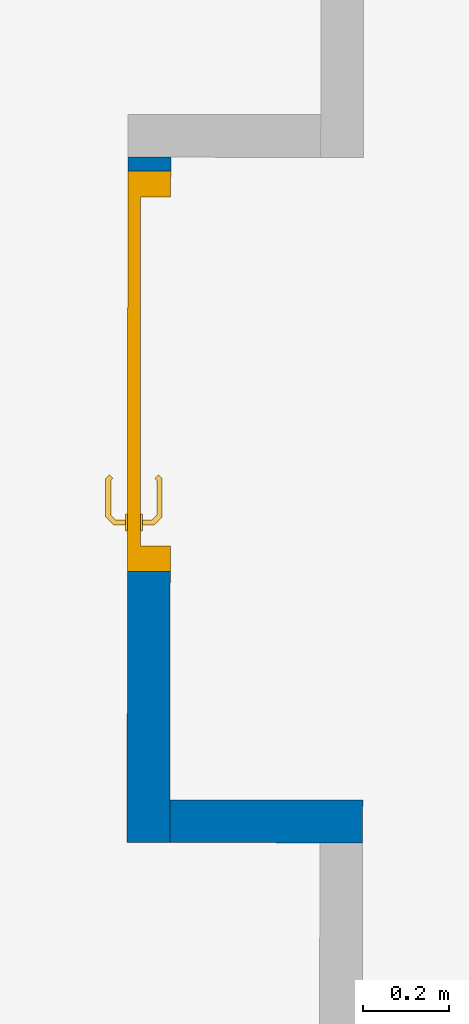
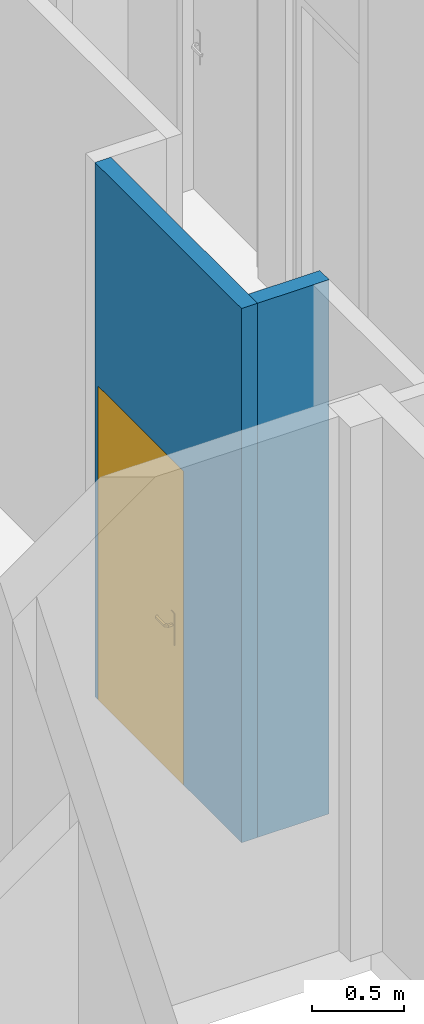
# One storey, part 77 of 101: 2 walls, 1 door, 1 opening.
"""IFC2X3 building model written with IfcOpenShell, lengths in metres."""

from ifc_helpers import new_model, entity, si_unit, converted_unit, derived_unit, direction, frame, frame_2d, origin, place, context, subcontext, project, spatial, rectangle, extrude, faceted_brep, source, transform, mapped, material, material_list, layer, layer_set, layer_usage, type_object, type_shapes, element, fill, save


model = new_model("IFC2X3")

# Units and contexts
model_context = context("Model", 3, precision=1e-05, world=origin(), true_north=direction((6.123233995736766e-17, 1.0)))
body_context = subcontext(model_context, "Body", "Model", "MODEL_VIEW")
ifc_project = project(units=[si_unit("LENGTHUNIT", "METRE"), si_unit("AREAUNIT", "SQUARE_METRE"), converted_unit("PLANEANGLEUNIT", "DEGREE", entity("IfcPlaneAngleMeasure", 0.017453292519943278), si_unit("PLANEANGLEUNIT", "RADIAN"), dimensions=[0, 0, 0, 0, 0, 0, 0]), derived_unit("THERMALTRANSMITTANCEUNIT", [(si_unit("MASSUNIT", "GRAM", prefix="KILO"), 1), (si_unit("THERMODYNAMICTEMPERATUREUNIT", "KELVIN"), -1), (si_unit("TIMEUNIT", "SECOND"), -3)])], contexts=[model_context])

# Site, building, storey
site_placement = place(None, frame((1253.6752467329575, 2072.143113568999, 91.49999999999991), z_axis=(0.0, 0.0, 1.0), x_axis=(0.7237211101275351, 0.6900925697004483, 0.0)))
site = spatial("IfcSite", under=ifc_project, at=site_placement, Name="Surface", CompositionType="ELEMENT")
building_placement = place(site_placement, origin())
building = spatial("IfcBuilding", under=site, at=building_placement, CompositionType="ELEMENT")
storey_placement = place(building_placement, origin())
storey = spatial("IfcBuildingStorey", under=building, at=storey_placement, Name="0- Rdc", CompositionType="ELEMENT", Elevation=-5.764692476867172e-13)

# Wall, opening, door
ifc_material_1 = material(Name="OMD_Béton blanc")
ifc_layer = layer(ifc_material_1, 0.1)
ifc_layer_set = layer_set([ifc_layer], Name="Mur de base:MUR 10")
ifc_layer_usage_1 = layer_usage(ifc_layer_set, "AXIS2", "NEGATIVE", 0.05)
wall_type = type_object("IfcWallType", Name="Mur de base:MUR 10", PredefinedType="STANDARD", material=ifc_layer_set)
wall_1_placement = place(storey_placement, frame((183.4916627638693, -13.191037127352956, 0.0), z_axis=(0.0, 0.0, 1.0), x_axis=(-0.6909838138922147, -0.7228702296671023, 0.0)))
wall_1 = element("IfcWallStandardCase", 1, at=wall_1_placement, inside=storey, type_object=wall_type, material=ifc_layer_usage_1, Name="Mur de base:MUR 10", ObjectType="Mur de base:MUR 10", context=body_context, shape_type="SweptSolid", body=[
    extrude(rectangle(XDim=1.5999999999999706, YDim=0.10000000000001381, at=frame_2d((0.7999999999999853, 2.0296264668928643e-15), x_axis=(-1.0, 0.0))), origin(), (0.0, 0.0, 1.0), 3.5499999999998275),
])
opening_placement = place(wall_1_placement, frame((0.9675000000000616, 0.04999999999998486, 0.0)))
opening = element("IfcOpeningElement", 2, at=opening_placement, cuts=wall_1, Name="OMD_Porte 1V tunnel:80x204:1", ObjectType="Opening", context=body_context, shape_type="SweptSolid", body=[
    extrude(rectangle(XDim=2.0850000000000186, YDim=0.9349999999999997, at=frame_2d((1.0425000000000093, 0.46750000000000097), x_axis=(1.0, 0.0))), frame((0.0, 0.0, 0.0), z_axis=(0.0, -1.0, 0.0), x_axis=(0.0, 0.0, 1.0)), (0.0, 0.0, 1.0), 0.09999999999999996),
])
ifc_material_2 = material(Name="Porte - Poignée")
ifc_material_3 = material(Name="OMD_Peinture mur")
ifc_material_4 = material(Name="OMD_Bois")
ifc_material_list = material_list([ifc_material_2, ifc_material_3, ifc_material_4])
door_style = type_object("IfcDoorStyle", Name="OMD_Porte 1V tunnel:80x204", ConstructionType="NOTDEFINED", OperationType="NOTDEFINED", ParameterTakesPrecedence=False, Sizeable=False, material=ifc_material_list)
shared_shape = source(origin(), body_context, "Body", "Brep", [
    faceted_brep([(0.8220252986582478, 0.03500000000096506, 1.0077804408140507), (0.8179747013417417, 0.03500000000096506, 1.007780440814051), (0.8139999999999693, 0.03500000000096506, 1.00699999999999), (0.8139999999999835, 0.03500000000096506, 0.9930000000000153), (0.8179747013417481, 0.03500000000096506, 0.9922195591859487), (0.8220252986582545, 0.03500000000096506, 0.9922195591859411), (0.8260000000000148, 0.03500000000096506, 0.9929999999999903), (0.826000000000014, 0.03500000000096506, 1.006999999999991), (0.8139999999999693, 0.05748520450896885, 1.00699999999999), (0.8139999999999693, 0.05748520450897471, 0.9930000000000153), (0.8179747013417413, 0.059131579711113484, 1.007780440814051), (0.8220252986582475, 0.060809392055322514, 1.0077804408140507), (0.8058389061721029, 0.07699578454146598, 1.0077804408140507), (0.8041610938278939, 0.07294518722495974, 1.007780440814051), (0.7207931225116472, 0.07294518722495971, 1.0077804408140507), (0.7191153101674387, 0.07699578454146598, 1.0077804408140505), (0.7114510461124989, 0.06933152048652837, 1.0077804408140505), (0.714315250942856, 0.0664673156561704, 1.0077804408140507), (0.8260000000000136, 0.062455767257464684, 1.006999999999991), (0.8260000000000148, 0.062455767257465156, 0.9929999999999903), (0.8220252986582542, 0.06080939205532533, 0.9922195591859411), (0.8179747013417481, 0.05913157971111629, 0.9922195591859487), (0.8041610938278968, 0.07294518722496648, 0.9922195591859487), (0.8058389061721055, 0.07699578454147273, 0.9922195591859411), (0.7191153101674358, 0.07699578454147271, 0.9922195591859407), (0.7207931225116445, 0.07294518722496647, 0.9922195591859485), (0.7143152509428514, 0.06646731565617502, 0.9922195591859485), (0.7114510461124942, 0.06933152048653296, 0.9922195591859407), (0.8025147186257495, 0.06897048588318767, 1.00699999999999), (0.8025147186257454, 0.06897048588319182, 0.9930000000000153), (0.8074852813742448, 0.08097048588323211, 1.006999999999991), (0.8074852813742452, 0.08097048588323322, 0.9929999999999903), (0.7624771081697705, 0.06897048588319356, 1.0069999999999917), (0.7224394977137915, 0.06897048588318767, 1.0069999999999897), (0.7224394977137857, 0.0689704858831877, 0.9930000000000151), (0.7624771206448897, 0.06897048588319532, 0.9930000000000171), (0.7624771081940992, 0.07512492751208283, 1.0078781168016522), (0.7573994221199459, 0.08097048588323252, 1.0069999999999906), (0.7174689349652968, 0.08097048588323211, 1.0069999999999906), (0.7675547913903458, 0.08097048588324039, 0.9929999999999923), (0.7174689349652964, 0.08097048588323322, 0.99299999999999), (0.762477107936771, 0.07512492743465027, 0.9921218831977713), (0.7086405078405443, 0.07214205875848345, 1.0069999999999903), (0.7086405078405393, 0.07214205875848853, 0.9929999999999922), (0.7171257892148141, 0.06365677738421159, 0.9930000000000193), (0.71712578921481, 0.06365677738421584, 1.0069999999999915)], [[[0, 1, 2, 3, 4, 5, 6, 7]], [[8, 9, 3, 2]], [[1, 10, 8, 2]], [[1, 0, 11, 12, 13, 10]], [[14, 15, 16, 17]], [[7, 18, 11, 0]], [[18, 7, 6, 19]], [[6, 5, 20, 19]], [[5, 4, 21, 22, 23, 20]], [[24, 25, 26, 27]], [[4, 3, 9, 21]], [[28, 29, 9, 8]], [[8, 10, 13, 28]], [[18, 30, 12, 11]], [[31, 30, 18, 19]], [[19, 20, 23, 31]], [[21, 9, 29, 22]], [[29, 28, 32, 33, 34, 35]], [[36, 32, 13]], [[37, 38, 15]], [[37, 12, 30]], [[36, 12, 37]], [[14, 32, 36]], [[36, 15, 14]], [[28, 13, 32]], [[32, 14, 33]], [[12, 36, 13]], [[15, 36, 37]], [[30, 31, 39, 40, 38, 37]], [[23, 41, 39]], [[24, 39, 41]], [[39, 31, 23]], [[39, 24, 40]], [[22, 35, 41]], [[41, 23, 22]], [[41, 35, 25]], [[35, 22, 29]], [[34, 25, 35]], [[24, 41, 25]], [[17, 16, 42, 43, 27, 26, 44, 45]], [[45, 44, 34, 33]], [[33, 14, 17, 45]], [[15, 38, 42, 16]], [[43, 42, 38, 40]], [[24, 27, 43, 40]], [[34, 44, 26, 25]]]),
    faceted_brep([(0.817974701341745, -0.004999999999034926, 1.007780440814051), (0.8220252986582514, -0.004999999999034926, 1.0077804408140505), (0.8260000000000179, -0.004999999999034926, 1.0069999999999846), (0.8260000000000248, -0.004999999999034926, 0.9929999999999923), (0.8220252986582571, -0.004999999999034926, 0.992219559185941), (0.817974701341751, -0.004999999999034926, 0.9922195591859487), (0.8139999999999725, -0.004999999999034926, 0.9930000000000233), (0.8139999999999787, -0.004999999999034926, 1.006999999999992), (0.8220252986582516, -0.03100457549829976, 1.0077804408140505), (0.8260000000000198, -0.03265095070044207, 1.0069999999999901), (0.8179747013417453, -0.02932676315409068, 1.007780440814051), (0.8042986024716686, -0.04300286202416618, 1.007780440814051), (0.8059764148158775, -0.04705345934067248, 1.0077804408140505), (0.7191424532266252, -0.04705345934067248, 1.0077804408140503), (0.7208202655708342, -0.04300286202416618, 1.0077804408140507), (0.714342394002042, -0.03652499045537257, 1.0077804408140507), (0.7114781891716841, -0.039389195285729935, 1.0077804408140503), (0.813999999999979, -0.02768038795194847, 1.006999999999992), (0.8139999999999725, -0.02768038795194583, 0.9930000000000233), (0.817974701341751, -0.029326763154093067, 0.9922195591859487), (0.8220252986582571, -0.031004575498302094, 0.992219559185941), (0.8059764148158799, -0.0470534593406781, 0.992219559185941), (0.804298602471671, -0.04300286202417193, 0.9922195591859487), (0.7208202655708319, -0.04300286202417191, 0.9922195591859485), (0.7191424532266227, -0.047053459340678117, 0.9922195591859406), (0.71147818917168, -0.03938919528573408, 0.9922195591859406), (0.7143423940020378, -0.036524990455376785, 0.9922195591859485), (0.8260000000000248, -0.032650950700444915, 0.9929999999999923), (0.807622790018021, -0.051028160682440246, 1.0069999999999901), (0.8026522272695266, -0.03902816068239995, 1.006999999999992), (0.8026522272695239, -0.03902816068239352, 0.9930000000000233), (0.8076227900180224, -0.05102816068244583, 0.9929999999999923), (0.762559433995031, -0.0451828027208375, 1.0078781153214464), (0.7676923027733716, -0.05102816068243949, 1.0069999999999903), (0.7174960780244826, -0.05102816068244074, 1.00699999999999), (0.7625594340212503, -0.03902816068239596, 1.0069999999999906), (0.7224666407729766, -0.039028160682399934, 1.0069999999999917), (0.7625594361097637, -0.03902816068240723, 0.9930000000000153), (0.7224666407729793, -0.03902816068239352, 0.9930000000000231), (0.7625594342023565, -0.04518280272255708, 0.9921218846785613), (0.7574265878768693, -0.051028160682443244, 0.9929999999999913), (0.7174960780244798, -0.05102816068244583, 0.9929999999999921), (0.7171529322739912, -0.033714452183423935, 0.9930000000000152), (0.7086676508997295, -0.04219973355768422, 0.9929999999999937), (0.7086676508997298, -0.04219973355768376, 1.0069999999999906), (0.717152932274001, -0.03371445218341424, 1.0069999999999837)], [[[0, 1, 2, 3, 4, 5, 6, 7]], [[2, 1, 8, 9]], [[1, 0, 10, 11, 12, 8]], [[13, 14, 15, 16]], [[0, 7, 17, 10]], [[18, 17, 7, 6]], [[5, 19, 18, 6]], [[5, 4, 20, 21, 22, 19]], [[23, 24, 25, 26]], [[3, 27, 20, 4]], [[9, 27, 3, 2]], [[9, 8, 12, 28]], [[10, 17, 29, 11]], [[30, 29, 17, 18]], [[18, 19, 22, 30]], [[20, 27, 31, 21]], [[28, 31, 27, 9]], [[12, 32, 33]], [[13, 33, 32]], [[33, 28, 12]], [[33, 13, 34]], [[11, 35, 32]], [[32, 12, 11]], [[32, 35, 14]], [[35, 11, 29]], [[36, 14, 35]], [[13, 32, 14]], [[29, 30, 37, 38, 36, 35]], [[39, 37, 22]], [[40, 41, 24]], [[40, 21, 31]], [[39, 21, 40]], [[23, 37, 39]], [[39, 24, 23]], [[30, 22, 37]], [[37, 23, 38]], [[21, 39, 22]], [[24, 39, 40]], [[31, 28, 33, 34, 41, 40]], [[42, 26, 25, 43, 44, 16, 15, 45]], [[13, 16, 44, 34]], [[36, 45, 15, 14]], [[42, 45, 36, 38]], [[38, 23, 26, 42]], [[24, 41, 43, 25]], [[44, 43, 41, 34]]]),
    faceted_brep([(0.8199999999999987, 0.030000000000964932, 0.8646410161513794), (0.8303527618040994, 0.03000000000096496, 0.866003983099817), (0.8399999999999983, 0.030000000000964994, 0.8700000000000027), (0.8399999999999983, 0.030000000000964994, 1.0800000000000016), (0.8303527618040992, 0.03000000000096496, 1.0839960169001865), (0.8199999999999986, 0.030000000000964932, 1.0853589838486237), (0.809647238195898, 0.030000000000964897, 1.0839960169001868), (0.7999999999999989, 0.030000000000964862, 1.0800000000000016), (0.7999999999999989, 0.030000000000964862, 0.8700000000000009), (0.8096472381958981, 0.030000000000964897, 0.8660039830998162), (0.8199999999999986, 0.03500000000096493, 1.0853589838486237), (0.8303527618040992, 0.03500000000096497, 1.0839960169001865), (0.8399999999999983, 0.035000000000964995, 1.0800000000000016), (0.8399999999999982, 0.035000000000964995, 0.8700000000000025), (0.8303527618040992, 0.03500000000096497, 0.866003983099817), (0.8199999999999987, 0.03500000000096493, 0.8646410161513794), (0.8096472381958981, 0.0350000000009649, 0.8660039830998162), (0.7999999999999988, 0.03500000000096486, 0.8700000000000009), (0.7999999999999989, 0.03500000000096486, 1.0800000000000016), (0.809647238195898, 0.0350000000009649, 1.0839960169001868)], [[[0, 1, 2, 3, 4, 5, 6, 7, 8, 9]], [[10, 11, 12, 13, 14, 15, 16, 17, 18, 19]], [[6, 19, 18, 7]], [[5, 10, 19, 6]], [[4, 11, 10, 5]], [[4, 3, 12, 11]], [[12, 3, 2, 13]], [[1, 14, 13, 2]], [[0, 15, 14, 1]], [[9, 16, 15, 0]], [[9, 8, 17, 16]], [[17, 8, 7, 18]]]),
    faceted_brep([(0.819999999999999, -0.004999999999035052, 0.8646410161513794), (0.8303527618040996, -0.0049999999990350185, 0.8660039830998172), (0.8399999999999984, -0.004999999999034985, 0.8700000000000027), (0.8399999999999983, -0.004999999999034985, 1.0800000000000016), (0.8303527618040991, -0.0049999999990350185, 1.0839960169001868), (0.8199999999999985, -0.004999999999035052, 1.0853589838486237), (0.8096472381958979, -0.004999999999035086, 1.0839960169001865), (0.7999999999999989, -0.004999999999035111, 1.0800000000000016), (0.7999999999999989, -0.004999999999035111, 0.8700000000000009), (0.8096472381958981, -0.004999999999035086, 0.8660039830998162), (0.8399999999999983, 0.0, 1.0800000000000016), (0.8399999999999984, 0.0, 0.8700000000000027), (0.8303527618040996, 0.0, 0.8660039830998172), (0.819999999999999, 0.0, 0.8646410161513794), (0.8096472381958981, 0.0, 0.8660039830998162), (0.7999999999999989, 0.0, 0.8700000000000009), (0.7999999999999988, 0.0, 1.0800000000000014), (0.8096472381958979, 0.0, 1.0839960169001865), (0.8199999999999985, 0.0, 1.0853589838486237), (0.8303527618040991, 0.0, 1.0839960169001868)], [[[0, 1, 2, 3, 4, 5, 6, 7, 8, 9]], [[10, 11, 12, 13, 14, 15, 16, 17, 18, 19]], [[1, 12, 11, 2]], [[0, 13, 12, 1]], [[9, 14, 13, 0]], [[9, 8, 15, 14]], [[15, 8, 7, 16]], [[6, 17, 16, 7]], [[5, 18, 17, 6]], [[4, 19, 18, 5]], [[4, 3, 10, 19]], [[10, 3, 2, 11]]]),
    faceted_brep([(0.89, 0.030000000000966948, 0.0), (0.89, 0.0, 0.0), (0.04500000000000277, 0.0, 0.0), (0.04500000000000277, 0.030000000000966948, 0.0), (0.89, 0.030000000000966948, 2.04), (0.89, 0.0, 2.04), (0.04500000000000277, 0.0, 2.04), (0.04500000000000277, 0.030000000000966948, 2.04)], [[[0, 1, 2, 3]], [[4, 5, 1, 0]], [[5, 6, 2, 1]], [[6, 7, 3, 2]], [[7, 4, 0, 3]], [[4, 7, 6, 5]]]),
    faceted_brep([(0.9350000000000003, 0.0, 0.0), (0.89, 0.0, 0.0), (0.8900000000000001, 0.03000000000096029, 0.0), (0.8750000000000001, 0.030000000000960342, 0.0), (0.8750000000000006, 0.10000000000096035, 0.0), (0.9350000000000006, 0.10000000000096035, 0.0), (0.9350000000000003, 0.0, 2.085), (0.0, 0.0, 2.085), (0.0, 0.0, 0.0), (0.04500000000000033, 0.0, 0.0), (0.04500000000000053, 0.0, 2.04), (0.8899999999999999, 0.0, 2.0399999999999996), (0.89, 0.030000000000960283, 2.0399999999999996), (0.0450000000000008, 0.03000000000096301, 2.0399999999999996), (0.0450000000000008, 0.030000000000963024, 0.0), (0.060000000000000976, 0.030000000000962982, 0.0), (0.060000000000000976, 0.03000000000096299, 2.0249999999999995), (0.8750000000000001, 0.03000000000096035, 2.025), (0.8750000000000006, 0.10000000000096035, 2.0250000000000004), (0.060000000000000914, 0.10000000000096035, 2.025), (0.060000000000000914, 0.10000000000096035, 0.0), (0.0, 0.10000000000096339, 0.0), (0.0, 0.10000000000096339, 2.085), (0.9350000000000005, 0.10000000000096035, 2.085)], [[[0, 1, 2, 3, 4, 5]], [[1, 0, 6, 7, 8, 9, 10, 11]], [[2, 1, 11, 12]], [[3, 2, 12, 13, 14, 15, 16, 17]], [[4, 3, 17, 18]], [[5, 4, 18, 19, 20, 21, 22, 23]], [[0, 5, 23, 6]], [[7, 22, 21, 8]], [[8, 21, 20, 15, 14, 9]], [[13, 10, 9, 14]], [[19, 16, 15, 20]], [[12, 11, 10, 13]], [[18, 17, 16, 19]], [[6, 23, 22, 7]]]),
])
type_shapes(door_style, [shared_shape])
door_placement = place(opening_placement, frame((-0.9350000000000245, -0.09999999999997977, 0.0)))
door = element("IfcDoor", 3, at=door_placement, inside=storey, type_object=door_style, material=ifc_material_list, Name="OMD_Porte 1V tunnel:80x204", ObjectType="OMD_Porte 1V tunnel:80x204", OverallHeight=2.0850000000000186, OverallWidth=0.9349999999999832, context=body_context, shape_type="MappedRepresentation", body=[
    mapped(shared_shape, transform((0.0, 0.0, 0.0), scale=1.0)),
])
fill(opening, door)

# Wall
ifc_layer_usage_2 = layer_usage(ifc_layer_set, "AXIS2", "NEGATIVE", 0.05)
wall_2_placement = place(storey_placement, frame((182.78207296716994, -14.656977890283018, 0.0), z_axis=(0.0, 0.0, 1.0), x_axis=(-0.7228702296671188, 0.6909838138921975, 0.0)))
element("IfcWallStandardCase", 4, at=wall_2_placement, inside=storey, type_object=wall_type, material=ifc_layer_usage_2, Name="Mur de base:MUR 10", ObjectType="Mur de base:MUR 10", context=body_context, shape_type="SweptSolid", body=[
    extrude(rectangle(XDim=0.44999999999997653, YDim=0.10000000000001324, at=frame_2d((0.22499999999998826, -1.5404344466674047e-15), x_axis=(-1.0, 0.0))), origin(), (0.0, 0.0, 1.0), 3.5499999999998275),
])

save(model, "model.ifc")
